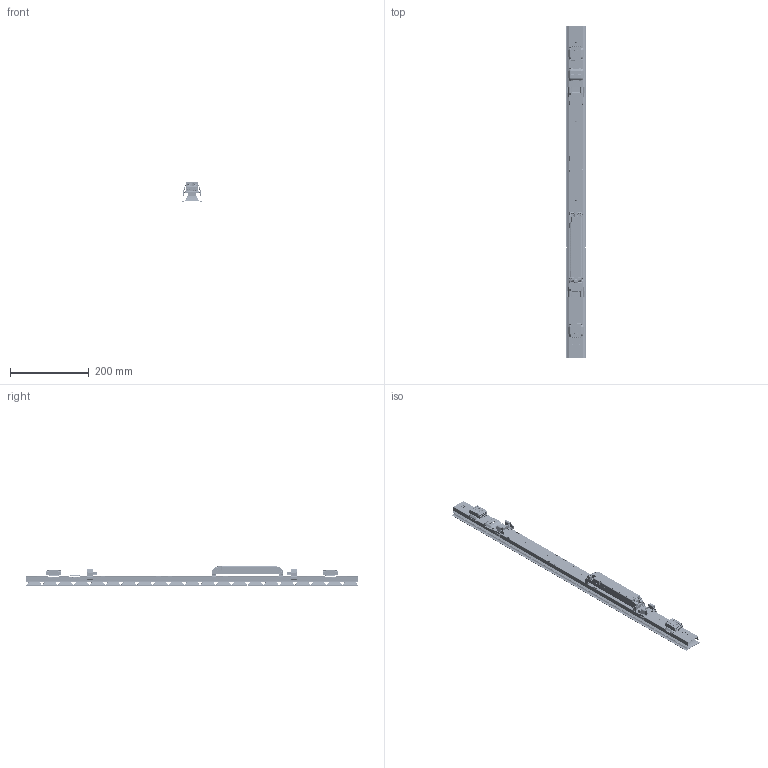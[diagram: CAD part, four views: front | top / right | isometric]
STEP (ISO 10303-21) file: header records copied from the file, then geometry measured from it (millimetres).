
FILE_DESCRIPTION(/* description */ ('This is a sample STEP configuration'),/* implementation_level */ '2;1');
FILE_NAME(/* name */ 'C:\_JPTemp\Daten\715-0704110xxxxxx _Simple.ipt_Rev_00.2.stp',/* time_stamp */ '2022-02-16T13:35:19+01:00',/* author */ ('powerJobs'),/* organization */ ('coolOrange'),/* preprocessor_version */ 'ST-DEVELOPER v18.1',/* originating_system */ 'Autodesk Inventor 2020',/* authorisation */ '');
FILE_SCHEMA (('AUTOMOTIVE_DESIGN { 1 0 10303 214 3 1 1 }'));
Length unit declared in the file: millimetre
Products named in the file (1): ENG000025144
Bounding box: 49.04 x 841.53 x 50.08 mm (x, y, z)
Volume: 171976.2 mm3; surface area: 350077.2 mm2
Topology: 20 solids, 20 shells, 17304 faces, 44212 edges, 26602 vertices
Faces by surface type: plane 7172, cylinder 5478, bspline 2637, sphere 1019, torus 516, cone 482
Full cylindrical faces by diameter (mm): 2.75 x9, 3 x3, 3.55 x9, 3.7 x12, 11.93 x21
Entity records: 667038 total; most frequent: CARTESIAN_POINT 242163, ORIENTED_EDGE 87286, DIRECTION 82496, EDGE_CURVE 43643, AXIS2_PLACEMENT_3D 28621, VERTEX_POINT 26566, LINE 25254, VECTOR 25254
